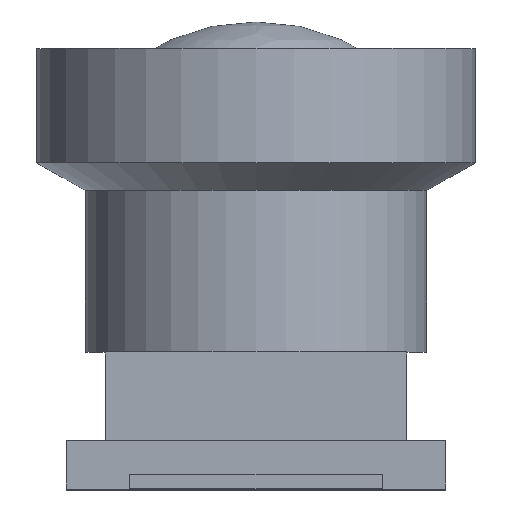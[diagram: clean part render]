
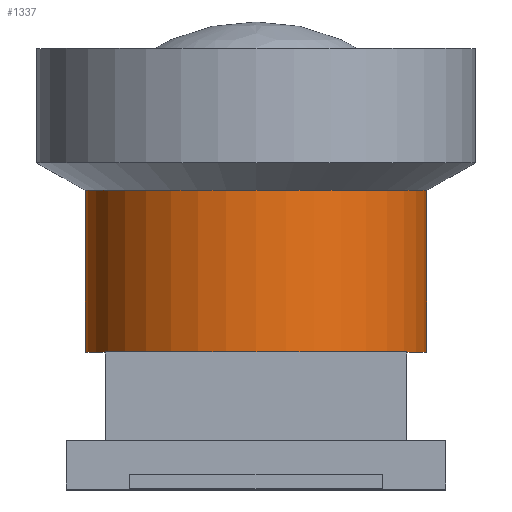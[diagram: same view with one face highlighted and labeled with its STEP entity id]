
A CAD part, top view. The second image highlights one B-rep face of the part: STEP entity #1337.
In plain terms, the highlighted cylindrical face has radius 3.85 mm (diameter 7.7 mm), a full revolution.
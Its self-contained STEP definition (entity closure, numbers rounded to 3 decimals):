
#1337 = ADVANCED_FACE('',(#1338),#1351,.T.);
#1338 = FACE_BOUND('',#1339,.T.);
#1339 = EDGE_LOOP('',(#1340,#1374,#1397,#1424));
#1340 = ORIENTED_EDGE('',*,*,#1341,.F.);
#1341 = EDGE_CURVE('',#1342,#1342,#1344,.T.);
#1342 = VERTEX_POINT('',#1343);
#1343 = CARTESIAN_POINT('',(0.,6.75,3.85));
#1344 = SURFACE_CURVE('',#1345,(#1350,#1362),.PCURVE_S1.);
#1345 = CIRCLE('',#1346,3.85);
#1346 = AXIS2_PLACEMENT_3D('',#1347,#1348,#1349);
#1347 = CARTESIAN_POINT('',(0.,6.75,0.));
#1348 = DIRECTION('',(0.,1.,0.));
#1349 = DIRECTION('',(0.,-0.,1.));
#1350 = PCURVE('',#1351,#1356);
#1351 = CYLINDRICAL_SURFACE('',#1352,3.85);
#1352 = AXIS2_PLACEMENT_3D('',#1353,#1354,#1355);
#1353 = CARTESIAN_POINT('',(0.,3.1,0.));
#1354 = DIRECTION('',(0.,1.,0.));
#1355 = DIRECTION('',(0.,-0.,1.));
#1356 = DEFINITIONAL_REPRESENTATION('',(#1357),#1361);
#1357 = LINE('',#1358,#1359);
#1358 = CARTESIAN_POINT('',(0.,3.65));
#1359 = VECTOR('',#1360,1.);
#1360 = DIRECTION('',(1.,0.));
#1361 = ( GEOMETRIC_REPRESENTATION_CONTEXT(2) 
PARAMETRIC_REPRESENTATION_CONTEXT() REPRESENTATION_CONTEXT('2D SPACE',''
  ) );
#1362 = PCURVE('',#1363,#1368);
#1363 = PLANE('',#1364);
#1364 = AXIS2_PLACEMENT_3D('',#1365,#1366,#1367);
#1365 = CARTESIAN_POINT('',(0.,6.75,0.));
#1366 = DIRECTION('',(0.,1.,0.));
#1367 = DIRECTION('',(0.,-0.,1.));
#1368 = DEFINITIONAL_REPRESENTATION('',(#1369),#1373);
#1369 = CIRCLE('',#1370,3.85);
#1370 = AXIS2_PLACEMENT_2D('',#1371,#1372);
#1371 = CARTESIAN_POINT('',(0.,0.));
#1372 = DIRECTION('',(1.,0.));
#1373 = ( GEOMETRIC_REPRESENTATION_CONTEXT(2) 
PARAMETRIC_REPRESENTATION_CONTEXT() REPRESENTATION_CONTEXT('2D SPACE',''
  ) );
#1374 = ORIENTED_EDGE('',*,*,#1375,.F.);
#1375 = EDGE_CURVE('',#1376,#1342,#1378,.T.);
#1376 = VERTEX_POINT('',#1377);
#1377 = CARTESIAN_POINT('',(0.,3.1,3.85));
#1378 = SEAM_CURVE('',#1379,(#1383,#1390),.PCURVE_S1.);
#1379 = LINE('',#1380,#1381);
#1380 = CARTESIAN_POINT('',(0.,3.1,3.85));
#1381 = VECTOR('',#1382,1.);
#1382 = DIRECTION('',(0.,1.,0.));
#1383 = PCURVE('',#1351,#1384);
#1384 = DEFINITIONAL_REPRESENTATION('',(#1385),#1389);
#1385 = LINE('',#1386,#1387);
#1386 = CARTESIAN_POINT('',(6.283,-0.));
#1387 = VECTOR('',#1388,1.);
#1388 = DIRECTION('',(0.,1.));
#1389 = ( GEOMETRIC_REPRESENTATION_CONTEXT(2) 
PARAMETRIC_REPRESENTATION_CONTEXT() REPRESENTATION_CONTEXT('2D SPACE',''
  ) );
#1390 = PCURVE('',#1351,#1391);
#1391 = DEFINITIONAL_REPRESENTATION('',(#1392),#1396);
#1392 = LINE('',#1393,#1394);
#1393 = CARTESIAN_POINT('',(0.,-0.));
#1394 = VECTOR('',#1395,1.);
#1395 = DIRECTION('',(0.,1.));
#1396 = ( GEOMETRIC_REPRESENTATION_CONTEXT(2) 
PARAMETRIC_REPRESENTATION_CONTEXT() REPRESENTATION_CONTEXT('2D SPACE',''
  ) );
#1397 = ORIENTED_EDGE('',*,*,#1398,.T.);
#1398 = EDGE_CURVE('',#1376,#1376,#1399,.T.);
#1399 = SURFACE_CURVE('',#1400,(#1405,#1412),.PCURVE_S1.);
#1400 = CIRCLE('',#1401,3.85);
#1401 = AXIS2_PLACEMENT_3D('',#1402,#1403,#1404);
#1402 = CARTESIAN_POINT('',(0.,3.1,0.));
#1403 = DIRECTION('',(0.,1.,0.));
#1404 = DIRECTION('',(0.,-0.,1.));
#1405 = PCURVE('',#1351,#1406);
#1406 = DEFINITIONAL_REPRESENTATION('',(#1407),#1411);
#1407 = LINE('',#1408,#1409);
#1408 = CARTESIAN_POINT('',(0.,0.));
#1409 = VECTOR('',#1410,1.);
#1410 = DIRECTION('',(1.,0.));
#1411 = ( GEOMETRIC_REPRESENTATION_CONTEXT(2) 
PARAMETRIC_REPRESENTATION_CONTEXT() REPRESENTATION_CONTEXT('2D SPACE',''
  ) );
#1412 = PCURVE('',#1413,#1418);
#1413 = PLANE('',#1414);
#1414 = AXIS2_PLACEMENT_3D('',#1415,#1416,#1417);
#1415 = CARTESIAN_POINT('',(0.,3.1,0.));
#1416 = DIRECTION('',(0.,1.,0.));
#1417 = DIRECTION('',(0.,-0.,1.));
#1418 = DEFINITIONAL_REPRESENTATION('',(#1419),#1423);
#1419 = CIRCLE('',#1420,3.85);
#1420 = AXIS2_PLACEMENT_2D('',#1421,#1422);
#1421 = CARTESIAN_POINT('',(0.,0.));
#1422 = DIRECTION('',(1.,0.));
#1423 = ( GEOMETRIC_REPRESENTATION_CONTEXT(2) 
PARAMETRIC_REPRESENTATION_CONTEXT() REPRESENTATION_CONTEXT('2D SPACE',''
  ) );
#1424 = ORIENTED_EDGE('',*,*,#1375,.T.);
